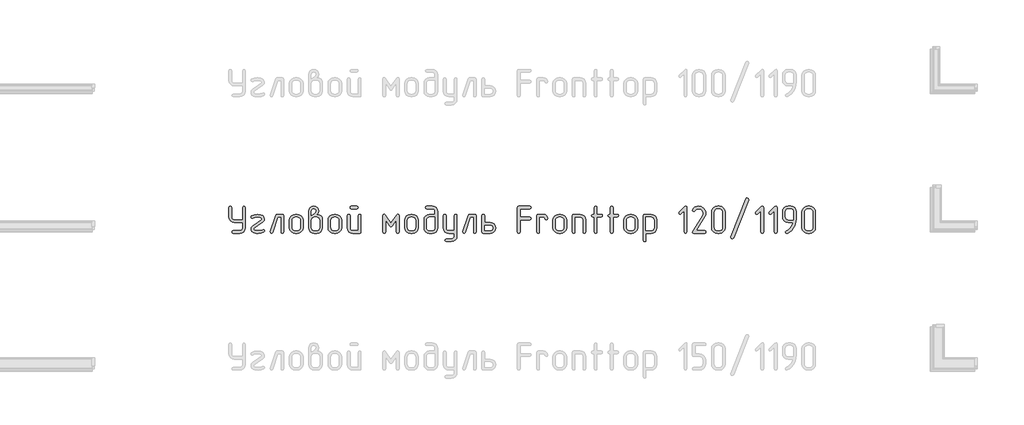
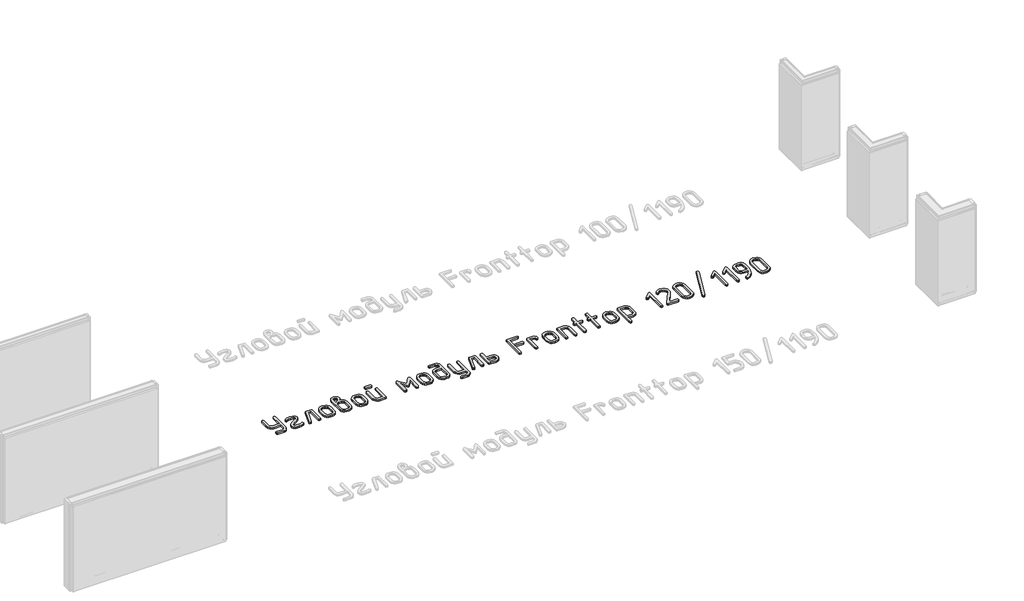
# One storey, part 29 of 37: 1 proxy.
"""IFC4 building model written with IfcOpenShell, lengths in millimetres."""

from ifc_helpers import new_model, si_unit, origin, origin_with_axes, place, context, project, spatial, polyline, outline, extrude, element, save

model = new_model("IFC4")

# Units and contexts
model_context = context("Model", 3, world=origin())
ifc_project = project(units=[si_unit("LENGTHUNIT", "METRE", prefix="MILLI")], contexts=[model_context])

# Site, building, storey
site = spatial("IfcSite", under=ifc_project)
building = spatial("IfcBuilding", under=site)
storey = spatial("IfcBuildingStorey", under=building, Name="Этаж 01", Elevation=0.0)

# Proxy
placement = place(None, origin())
element("IfcBuildingElementProxy", 1, Name="300 мм ГОСТ 2.304", ObjectType="300 мм ГОСТ 2.304", at=placement, inside=storey, context=model_context, shape_type="SweptSolid", body=[
    extrude(outline(polyline([(64282.5947081, -26608.7261154), (64192.9398643, -26608.7261154), (64169.869135, -26604.3522505), (64150.5152523, -26591.2306559), (64137.3936577, -26571.8767732), (64133.0197928, -26548.8060439), (64133.0197928, -26444.2838139), (64137.4124296, -26433.1332743), (64148.3377058, -26428.9659009), (64158.6247356, -26432.9080109), (64163.205092, -26444.2838139), (64163.205092, -26548.8060439), (64165.3357086, -26560.4540402), (64171.7275583, -26570.0183499), (64181.2918679, -26576.4101996), (64192.9398643, -26578.5408162), (64282.5947081, -26578.5408162), (64282.5947081, -26444.2838139), (64286.949801, -26433.1332743), (64297.4620942, -26428.9659009), (64307.9368436, -26432.9080109), (64312.3294804, -26444.2838139), (64312.3294804, -26668.19566), (64307.9556155, -26691.6042844), (64294.8340209, -26711.0707988), (64275.8180333, -26723.8544983), (64252.8599358, -26728.1157314), (64178.0724781, -26728.1157314), (64167.147202, -26723.7606385), (64163.205092, -26713.2483453), (64166.9219385, -26702.736052), (64178.0724781, -26698.3809591), (64252.8599358, -26698.3809591), (64264.2263528, -26696.1940267), (64273.8469783, -26689.6332294), (64280.4077756, -26679.8999722), (64282.5947081, -26668.19566), (64282.5947081, -26608.7261154)])), origin_with_axes(), (0.0, 0.0, 1.0), 20.0),
    extrude(outline(polyline([(64514.9914765, -26714.524838), (64485.4444237, -26725.0746752), (64451.6173658, -26728.5662583), (64430.8180428, -26727.4774851), (64413.0973199, -26724.5866044), (64396.8408093, -26719.4524755), (64384.8643037, -26709.3062353), (64377.4869265, -26695.6496401), (64375.0278008, -26679.984446), (64378.9699108, -26660.7619669), (64391.2467675, -26644.618088), (64486.5331969, -26578.991343), (64491.4139045, -26569.8306304), (64487.5844263, -26560.4071103), (64476.0959915, -26554.0621905), (64442.3815653, -26549.7070976), (64416.2510079, -26552.4290307), (64397.32888, -26560.5948299), (64388.1681673, -26564.1239569), (64377.693418, -26559.5436005), (64373.3007812, -26548.355517), (64379.4579815, -26537.0172579), (64408.0664367, -26524.777945), (64445.0096386, -26520.4228521), (64450.2657853, -26520.4228521), (64479.1370478, -26523.9144352), (64501.85111, -26533.7509382), (64516.7184961, -26549.0313073), (64521.9746427, -26568.9295767), (64517.7134096, -26586.6315276), (64504.9297101, -26602.193476), (64409.5681929, -26668.19566), (64404.3871341, -26679.6090069), (64408.1039806, -26689.8584928), (64417.9029396, -26695.7528858), (64434.3096259, -26697.5174493), (64451.9928049, -26698.3809591), (64478.4612575, -26696.2034127), (64501.0251441, -26687.8686659), (64508.4588371, -26686.1416463), (64519.1588499, -26690.7220026), (64523.3262233, -26701.9100861), (64521.2425366, -26709.1936036), (64514.9914765, -26714.524838)])), origin_with_axes(), (0.0, 0.0, 1.0), 20.0),
    extrude(outline(polyline([(64734.3229662, -26713.2483453), (64730.1555928, -26724.3988849), (64719.45558, -26728.1157314), (64708.9432868, -26724.1736215), (64704.5881939, -26713.2483453), (64704.5881939, -26548.8060439), (64670.0478018, -26548.8060439), (64614.0322964, -26718.0539651), (64608.5884303, -26725.4876581), (64600.5164908, -26728.1157314), (64589.7789341, -26724.1736215), (64585.1985778, -26713.6988721), (64586.0996315, -26708.4427255), (64645.1186493, -26529.133038), (64650.4498837, -26521.5867132), (64659.5355086, -26519.0712716), (64719.45558, -26519.0712716), (64730.6061197, -26522.7881181), (64734.3229662, -26533.9386577), (64734.3229662, -26713.2483453)])), origin_with_axes(), (0.0, 0.0, 1.0), 20.0),
    extrude(outline(polyline([(64945.7702359, -26662.4889865), (64940.9646162, -26687.9812976), (64926.5477569, -26709.3437792), (64905.5231704, -26723.4227434), (64880.143491, -26728.1157314), (64862.1975047, -26728.1157314), (64836.7615094, -26723.4227434), (64815.4177998, -26709.3437792), (64801.0009405, -26687.9812976), (64796.1953207, -26662.4889865), (64796.1953207, -26584.6980165), (64801.0009405, -26559.5436005), (64815.4177998, -26538.2937506), (64837.1744924, -26523.8768913), (64862.1975047, -26519.0712716), (64880.143491, -26519.0712716), (64905.288521, -26523.8862773), (64926.510213, -26538.3312945), (64940.9552302, -26559.5529865), (64945.7702359, -26584.6980165), (64945.7702359, -26662.4889865)]), holes=[polyline([(64916.0354636, -26662.4889865), (64916.0354636, -26584.6980165), (64913.4073903, -26570.9194036), (64905.5231704, -26559.3183371), (64893.9221039, -26551.4341172), (64880.143491, -26548.8060439), (64862.1975047, -26548.8060439), (64848.4282777, -26551.4341172), (64836.8553692, -26559.3183371), (64828.9993072, -26570.9194036), (64826.3806199, -26584.6980165), (64826.3806199, -26662.4889865), (64828.9993072, -26676.2675994), (64836.8553692, -26687.8686659), (64848.4282777, -26695.7528858), (64862.1975047, -26698.3809591), (64880.143491, -26698.3809591), (64893.9221039, -26695.7528858), (64905.5231704, -26687.8686659), (64913.4073903, -26676.2675994), (64916.0354636, -26662.4889865)])]), origin_with_axes(), (0.0, 0.0, 1.0), 20.0),
    extrude(outline(polyline([(65097.2974342, -26519.9723253), (65122.7897453, -26524.2335584), (65142.3501195, -26537.0172579), (65153.5006592, -26555.057104), (65157.2175057, -26578.5408162), (65157.2175057, -26668.19566), (65152.8436408, -26691.6042844), (65139.7220462, -26711.0707988), (65120.5934269, -26723.8544983), (65097.2974342, -26728.1157314), (65067.5626619, -26728.1157314), (65044.4919326, -26723.8544983), (65025.1380499, -26711.0707988), (65012.0164553, -26691.6042844), (65007.6425905, -26668.19566), (65007.6425905, -26483.2543867), (65011.9038236, -26460.3901489), (65024.6875231, -26442.5567943), (65041.4133325, -26432.3636243), (65061.8559884, -26428.9659009), (65081.9607493, -26432.3636243), (65098.573927, -26442.5567943), (65111.0760472, -26460.2775172), (65115.2434206, -26482.8038599), (65111.0760472, -26504.8421318), (65097.2974342, -26519.9723253)]), holes=[polyline([(65127.4827334, -26668.19566), (65127.4827334, -26578.5408162), (65125.295801, -26567.1743991), (65118.7350037, -26557.5537736), (65109.0017464, -26550.9929763), (65097.2974342, -26548.8060439), (65067.5626619, -26548.8060439), (65055.9146656, -26550.9929763), (65046.3503559, -26557.5537736), (65039.9585062, -26567.1743991), (65037.8278896, -26578.5408162), (65037.8278896, -26668.19566), (65039.9585062, -26679.8999722), (65046.3503559, -26689.6332294), (65055.9146656, -26696.1940267), (65067.5626619, -26698.3809591), (65097.2974342, -26698.3809591), (65109.0017464, -26696.1940267), (65118.7350037, -26689.6332294), (65125.295801, -26679.8999722), (65127.4827334, -26668.19566)]), polyline([(65037.8278896, -26529.133038), (65044.8110558, -26525.0032085), (65050.0672025, -26521.248818), (65060.1289688, -26514.0403884), (65067.5626619, -26508.5589783), (65079.8019748, -26497.671246), (65085.5086482, -26483.2543867), (65083.7065408, -26473.1644624), (65078.3002186, -26465.7213834), (65070.4723145, -26461.1316411), (65061.4054616, -26459.601727), (65052.4512404, -26461.1316411), (65044.8110558, -26465.7213834), (65039.5736812, -26473.1644624), (65037.8278896, -26483.2543867), (65037.8278896, -26529.133038)])]), origin_with_axes(), (0.0, 0.0, 1.0), 20.0),
    extrude(outline(polyline([(65368.6647755, -26662.4889865), (65363.8591557, -26687.9812976), (65349.4422964, -26709.3437792), (65328.4177099, -26723.4227434), (65303.0380305, -26728.1157314), (65285.0920442, -26728.1157314), (65259.6560489, -26723.4227434), (65238.3123393, -26709.3437792), (65223.89548, -26687.9812976), (65219.0898602, -26662.4889865), (65219.0898602, -26584.6980165), (65223.89548, -26559.5436005), (65238.3123393, -26538.2937506), (65260.0690319, -26523.8768913), (65285.0920442, -26519.0712716), (65303.0380305, -26519.0712716), (65328.1830605, -26523.8862773), (65349.4047525, -26538.3312945), (65363.8497697, -26559.5529865), (65368.6647755, -26584.6980165), (65368.6647755, -26662.4889865)]), holes=[polyline([(65338.9300032, -26662.4889865), (65338.9300032, -26584.6980165), (65336.3019298, -26570.9194036), (65328.4177099, -26559.3183371), (65316.8166434, -26551.4341172), (65303.0380305, -26548.8060439), (65285.0920442, -26548.8060439), (65271.3228172, -26551.4341172), (65259.7499087, -26559.3183371), (65251.8938467, -26570.9194036), (65249.2751594, -26584.6980165), (65249.2751594, -26662.4889865), (65251.8938467, -26676.2675994), (65259.7499087, -26687.8686659), (65271.3228172, -26695.7528858), (65285.0920442, -26698.3809591), (65303.0380305, -26698.3809591), (65316.8166434, -26695.7528858), (65328.4177099, -26687.8686659), (65336.3019298, -26676.2675994), (65338.9300032, -26662.4889865)])]), origin_with_axes(), (0.0, 0.0, 1.0), 20.0),
    extrude(outline(polyline([(65535.5098868, -26459.1512001), (65475.5898153, -26459.1512001), (65464.6645391, -26454.7961072), (65460.7224291, -26444.2838139), (65464.4392757, -26433.5838012), (65475.5898153, -26428.9659009), (65535.5098868, -26428.9659009), (65546.6604264, -26433.3585378), (65550.3772729, -26444.2838139), (65546.4351629, -26454.5708438), (65535.5098868, -26459.1512001)])), origin_with_axes(), (0.0, 0.0, 1.0), 20.0),
    extrude(outline(polyline([(65580.1120452, -26713.2483453), (65576.3951987, -26724.3988849), (65565.2446591, -26728.1157314), (65490.4572014, -26728.1157314), (65467.3864722, -26723.8544983), (65448.0325894, -26711.0707988), (65434.9109948, -26691.6042844), (65430.53713, -26668.19566), (65430.53713, -26533.9386577), (65434.9297668, -26523.0133815), (65445.855043, -26519.0712716), (65456.1420728, -26522.7881181), (65460.7224291, -26533.9386577), (65460.7224291, -26668.19566), (65462.8530457, -26679.8999722), (65469.2448954, -26689.6332294), (65478.8092051, -26696.1940267), (65490.4572014, -26698.3809591), (65550.3772729, -26698.3809591), (65550.3772729, -26533.9386577), (65554.7323658, -26523.0133815), (65565.2446591, -26519.0712716), (65575.7194084, -26522.7881181), (65580.1120452, -26533.9386577), (65580.1120452, -26713.2483453)])), origin_with_axes(), (0.0, 0.0, 1.0), 20.0),
    extrude(outline(polyline([(65999.1020187, -26713.2483453), (65994.7093818, -26724.1736215), (65984.2346325, -26728.1157314), (65973.4970758, -26724.3988849), (65969.3672464, -26713.2483453), (65969.3672464, -26580.2678358), (65921.6864877, -26647.2461613), (65915.5480594, -26653.1030104), (65909.4471749, -26655.0552934), (65903.121027, -26653.1030104), (65897.207862, -26647.2461613), (65849.9776303, -26580.2678358), (65849.9776303, -26713.2483453), (65845.3972739, -26724.1736215), (65835.1102441, -26728.1157314), (65823.9597045, -26724.3988849), (65819.7923311, -26713.2483453), (65819.7923311, -26533.9386577), (65823.5091776, -26521.0235546), (65832.9326977, -26516.4431983), (65840.666742, -26518.6395167), (65847.349557, -26525.2284719), (65909.4471749, -26612.6306814), (65971.9953197, -26525.2284719), (65978.7532225, -26518.6395167), (65985.9616521, -26516.4431983), (65995.3851721, -26521.0235546), (65999.1020187, -26533.9386577), (65999.1020187, -26713.2483453)])), origin_with_axes(), (0.0, 0.0, 1.0), 20.0),
    extrude(outline(polyline([(66209.6482347, -26662.4889865), (66204.8426149, -26687.9812976), (66190.4257556, -26709.3437792), (66169.4011692, -26723.4227434), (66144.0214898, -26728.1157314), (66126.0755035, -26728.1157314), (66100.6395082, -26723.4227434), (66079.2957985, -26709.3437792), (66064.8789392, -26687.9812976), (66060.0733195, -26662.4889865), (66060.0733195, -26584.6980165), (66064.8789392, -26559.5436005), (66079.2957985, -26538.2937506), (66101.0524911, -26523.8768913), (66126.0755035, -26519.0712716), (66144.0214898, -26519.0712716), (66169.1665198, -26523.8862773), (66190.3882117, -26538.3312945), (66204.833229, -26559.5529865), (66209.6482347, -26584.6980165), (66209.6482347, -26662.4889865)]), holes=[polyline([(66179.9134624, -26662.4889865), (66179.9134624, -26584.6980165), (66177.2853891, -26570.9194036), (66169.4011692, -26559.3183371), (66157.8001027, -26551.4341172), (66144.0214898, -26548.8060439), (66126.0755035, -26548.8060439), (66112.3062765, -26551.4341172), (66100.733368, -26559.3183371), (66092.877306, -26570.9194036), (66090.2586186, -26584.6980165), (66090.2586186, -26662.4889865), (66092.877306, -26676.2675994), (66100.733368, -26687.8686659), (66112.3062765, -26695.7528858), (66126.0755035, -26698.3809591), (66144.0214898, -26698.3809591), (66157.8001027, -26695.7528858), (66169.4011692, -26687.8686659), (66177.2853891, -26676.2675994), (66179.9134624, -26662.4889865)])]), origin_with_axes(), (0.0, 0.0, 1.0), 20.0),
    extrude(outline(polyline([(66391.3607322, -26519.0712716), (66391.3607322, -26488.8859724), (66389.1737997, -26477.2379761), (66382.6130024, -26467.6736664), (66372.8797452, -26461.2818167), (66361.175433, -26459.1512001), (66301.7058884, -26459.1512001), (66290.7806122, -26454.7961072), (66286.8385022, -26444.2838139), (66290.5553488, -26433.5838012), (66301.7058884, -26428.9659009), (66361.175433, -26428.9659009), (66384.4714257, -26433.3397658), (66403.600045, -26446.4613604), (66416.7216396, -26465.8152431), (66421.0955045, -26488.8859724), (66421.0955045, -26668.19566), (66416.7216396, -26691.6042844), (66403.600045, -26711.0707988), (66384.4714257, -26723.8544983), (66361.175433, -26728.1157314), (66331.4406607, -26728.1157314), (66308.3699314, -26723.8544983), (66289.0160487, -26711.0707988), (66275.8944541, -26691.6042844), (66271.5205892, -26668.19566), (66271.5205892, -26578.5408162), (66275.8944541, -26555.8079821), (66289.0160487, -26536.566731), (66308.3699314, -26523.4451364), (66331.4406607, -26519.0712716), (66391.3607322, -26519.0712716)]), holes=[polyline([(66391.3607322, -26548.8060439), (66331.4406607, -26548.8060439), (66319.7926643, -26550.9929763), (66310.2283547, -26557.5537736), (66303.836505, -26567.1743991), (66301.7058884, -26578.5408162), (66301.7058884, -26668.19566), (66303.836505, -26679.8999722), (66310.2283547, -26689.6332294), (66319.7926643, -26696.1940267), (66331.4406607, -26698.3809591), (66361.175433, -26698.3809591), (66372.8797452, -26696.1940267), (66382.6130024, -26689.6332294), (66389.1737997, -26679.8999722), (66391.3607322, -26668.19566), (66391.3607322, -26548.8060439)])]), origin_with_axes(), (0.0, 0.0, 1.0), 20.0),
    extrude(outline(polyline([(66602.8080019, -26728.1157314), (66542.8879304, -26728.1157314), (66519.8172012, -26723.8544983), (66500.4633184, -26711.0707988), (66487.3417238, -26691.6042844), (66482.967859, -26668.19566), (66482.967859, -26533.9386577), (66487.3604958, -26523.0133815), (66498.285772, -26519.0712716), (66508.5728018, -26522.7881181), (66513.1531581, -26533.9386577), (66513.1531581, -26668.19566), (66515.2837747, -26679.8999722), (66521.6756244, -26689.6332294), (66531.2399341, -26696.1940267), (66542.8879304, -26698.3809591), (66602.8080019, -26698.3809591), (66602.8080019, -26533.9386577), (66607.1630948, -26523.0133815), (66617.6753881, -26519.0712716), (66628.1501374, -26522.7881181), (66632.5427742, -26533.9386577), (66632.5427742, -26757.8505038), (66628.2815411, -26781.1464965), (66615.4978416, -26800.2751158), (66596.0313272, -26813.3967104), (66572.6227028, -26817.7705752), (66513.1531581, -26817.7705752), (66502.2278819, -26813.3779384), (66498.285772, -26802.9031891), (66502.0026185, -26792.3908958), (66513.1531581, -26788.0358029), (66572.6227028, -26788.0358029), (66584.327015, -26785.8488705), (66594.0602722, -26779.2880732), (66600.6210695, -26769.554816), (66602.8080019, -26757.8505038), (66602.8080019, -26728.1157314)])), origin_with_axes(), (0.0, 0.0, 1.0), 20.0),
    extrude(outline(polyline([(66843.990044, -26713.2483453), (66839.8226706, -26724.3988849), (66829.1226578, -26728.1157314), (66818.6103646, -26724.1736215), (66814.2552717, -26713.2483453), (66814.2552717, -26548.8060439), (66779.7148796, -26548.8060439), (66723.6993742, -26718.0539651), (66718.255508, -26725.4876581), (66710.1835686, -26728.1157314), (66699.4460119, -26724.1736215), (66694.8656556, -26713.6988721), (66695.7667093, -26708.4427255), (66754.7857271, -26529.133038), (66760.1169615, -26521.5867132), (66769.2025864, -26519.0712716), (66829.1226578, -26519.0712716), (66840.2731974, -26522.7881181), (66843.990044, -26533.9386577), (66843.990044, -26713.2483453)])), origin_with_axes(), (0.0, 0.0, 1.0), 20.0),
    extrude(outline(polyline([(66936.0476976, -26608.7261154), (66995.5172423, -26608.7261154), (67021.0095534, -26613.3252436), (67040.5699276, -26627.1226285), (67051.7204672, -26645.4628258), (67055.4373137, -26668.19566), (67051.8330989, -26690.9472661), (67041.0204544, -26709.3437792), (67021.1221851, -26723.4227434), (66995.5172423, -26728.1157314), (66921.1803115, -26728.1157314), (66909.6918767, -26724.3988849), (66905.8623985, -26713.2483453), (66905.8623985, -26533.9386577), (66910.2550353, -26523.0133815), (66921.1803115, -26519.0712716), (66931.4673413, -26522.7881181), (66936.0476976, -26533.9386577), (66936.0476976, -26608.7261154)]), holes=[polyline([(66936.0476976, -26638.4608877), (66936.0476976, -26698.3809591), (66995.5172423, -26698.3809591), (67008.3009417, -26696.1377108), (67017.8183215, -26689.407966), (67023.7314864, -26679.6183929), (67025.7025414, -26668.19566), (67023.8441182, -26657.1577521), (67018.2688483, -26647.6216003), (67008.6388369, -26640.7510658), (66995.5172423, -26638.4608877), (66936.0476976, -26638.4608877)])]), origin_with_axes(), (0.0, 0.0, 1.0), 20.0),
    extrude(outline(polyline([(67325.3028988, -26548.355517), (67429.8251287, -26548.355517), (67440.9756683, -26552.5228904), (67444.6925149, -26563.2229032), (67440.7504049, -26573.9604598), (67429.8251287, -26578.5408162), (67325.3028988, -26578.5408162), (67325.3028988, -26713.2483453), (67321.1355254, -26724.3988849), (67310.4355126, -26728.1157314), (67299.697956, -26724.1736215), (67295.1175996, -26713.2483453), (67295.1175996, -26444.2838139), (67298.9470779, -26432.7953792), (67310.4355126, -26428.9659009), (67429.8251287, -26428.9659009), (67440.9756683, -26433.3585378), (67444.6925149, -26444.2838139), (67440.7504049, -26454.5708438), (67429.8251287, -26459.1512001), (67325.3028988, -26459.1512001), (67325.3028988, -26548.355517)])), origin_with_axes(), (0.0, 0.0, 1.0), 20.0),
    extrude(outline(polyline([(67626.4050123, -26563.67343), (67622.2376389, -26574.8239697), (67611.5376262, -26578.5408162), (67600.8000695, -26574.5987062), (67596.2197132, -26563.67343), (67592.0523398, -26553.1986807), (67581.352327, -26548.8060439), (67536.7501685, -26548.8060439), (67536.7501685, -26713.2483453), (67532.5827951, -26724.3988849), (67521.8827824, -26728.1157314), (67511.1452257, -26724.1736215), (67506.5648694, -26713.2483453), (67506.5648694, -26533.9386577), (67510.3943476, -26522.7881181), (67521.8827824, -26519.0712716), (67581.352327, -26519.0712716), (67598.8477865, -26522.5628547), (67613.3021897, -26532.1740942), (67622.9134292, -26546.403234), (67626.4050123, -26563.67343)])), origin_with_axes(), (0.0, 0.0, 1.0), 20.0),
    extrude(outline(polyline([(67833.947716, -26662.4889865), (67829.1420963, -26687.9812976), (67814.7252369, -26709.3437792), (67793.7006505, -26723.4227434), (67768.3209711, -26728.1157314), (67750.3749848, -26728.1157314), (67724.9389895, -26723.4227434), (67703.5952798, -26709.3437792), (67689.1784205, -26687.9812976), (67684.3728008, -26662.4889865), (67684.3728008, -26584.6980165), (67689.1784205, -26559.5436005), (67703.5952798, -26538.2937506), (67725.3519725, -26523.8768913), (67750.3749848, -26519.0712716), (67768.3209711, -26519.0712716), (67793.4660011, -26523.8862773), (67814.687693, -26538.3312945), (67829.1327103, -26559.5529865), (67833.947716, -26584.6980165), (67833.947716, -26662.4889865)]), holes=[polyline([(67804.2129437, -26662.4889865), (67804.2129437, -26584.6980165), (67801.5848704, -26570.9194036), (67793.7006505, -26559.3183371), (67782.099584, -26551.4341172), (67768.3209711, -26548.8060439), (67750.3749848, -26548.8060439), (67736.6057578, -26551.4341172), (67725.0328493, -26559.3183371), (67717.1767873, -26570.9194036), (67714.5580999, -26584.6980165), (67714.5580999, -26662.4889865), (67717.1767873, -26676.2675994), (67725.0328493, -26687.8686659), (67736.6057578, -26695.7528858), (67750.3749848, -26698.3809591), (67768.3209711, -26698.3809591), (67782.099584, -26695.7528858), (67793.7006505, -26687.8686659), (67801.5848704, -26676.2675994), (67804.2129437, -26662.4889865)])]), origin_with_axes(), (0.0, 0.0, 1.0), 20.0),
    extrude(outline(polyline([(68045.3949858, -26713.2483453), (68041.2276124, -26724.3988849), (68030.5275996, -26728.1157314), (68020.0153064, -26724.1736215), (68015.6602135, -26713.2483453), (68015.6602135, -26578.5408162), (68013.473281, -26567.1743991), (68006.9124837, -26557.5537736), (67997.1792265, -26550.9929763), (67985.4749143, -26548.8060439), (67926.0053697, -26548.8060439), (67926.0053697, -26713.2483453), (67921.8379963, -26724.3988849), (67911.1379835, -26728.1157314), (67900.4004269, -26724.1736215), (67895.8200705, -26713.2483453), (67895.8200705, -26533.9386577), (67899.6495488, -26522.7881181), (67911.1379835, -26519.0712716), (67985.4749143, -26519.0712716), (68008.770907, -26523.3325047), (68027.8995263, -26536.1162042), (68041.0211209, -26555.4700869), (68045.3949858, -26578.5408162), (68045.3949858, -26713.2483453)])), origin_with_axes(), (0.0, 0.0, 1.0), 20.0),
    extrude(outline(polyline([(68167.1874117, -26519.0712716), (68212.2400971, -26519.0712716), (68223.3906367, -26523.238645), (68227.1074832, -26533.9386577), (68223.1653733, -26544.2256875), (68212.2400971, -26548.8060439), (68167.1874117, -26548.8060439), (68167.1874117, -26713.2483453), (68163.0200384, -26724.3988849), (68152.3200256, -26728.1157314), (68141.8077324, -26724.1736215), (68137.4526394, -26713.2483453), (68137.4526394, -26548.8060439), (68122.5852533, -26548.8060439), (68111.4347137, -26544.450951), (68107.2673403, -26533.9386577), (68111.2094502, -26523.4639084), (68122.5852533, -26519.0712716), (68137.4526394, -26519.0712716), (68137.4526394, -26444.2838139), (68141.8077324, -26433.1332743), (68152.3200256, -26428.9659009), (68162.7947749, -26432.9080109), (68167.1874117, -26444.2838139), (68167.1874117, -26519.0712716)])), origin_with_axes(), (0.0, 0.0, 1.0), 20.0),
    extrude(outline(polyline([(68344.9953431, -26519.0712716), (68390.0480284, -26519.0712716), (68401.1985681, -26523.238645), (68404.9154146, -26533.9386577), (68400.9733046, -26544.2256875), (68390.0480284, -26548.8060439), (68344.9953431, -26548.8060439), (68344.9953431, -26713.2483453), (68340.8279697, -26724.3988849), (68330.127957, -26728.1157314), (68319.6156637, -26724.1736215), (68315.2605708, -26713.2483453), (68315.2605708, -26548.8060439), (68300.3931847, -26548.8060439), (68289.2426451, -26544.450951), (68285.0752717, -26533.9386577), (68289.0173816, -26523.4639084), (68300.3931847, -26519.0712716), (68315.2605708, -26519.0712716), (68315.2605708, -26444.2838139), (68319.6156637, -26433.1332743), (68330.127957, -26428.9659009), (68340.6027063, -26432.9080109), (68344.9953431, -26444.2838139), (68344.9953431, -26519.0712716)])), origin_with_axes(), (0.0, 0.0, 1.0), 20.0),
    extrude(outline(polyline([(68612.4581183, -26662.4889865), (68607.6524985, -26687.9812976), (68593.2356392, -26709.3437792), (68572.2110527, -26723.4227434), (68546.8313734, -26728.1157314), (68528.885387, -26728.1157314), (68503.4493918, -26723.4227434), (68482.1056821, -26709.3437792), (68467.6888228, -26687.9812976), (68462.883203, -26662.4889865), (68462.883203, -26584.6980165), (68467.6888228, -26559.5436005), (68482.1056821, -26538.2937506), (68503.8623747, -26523.8768913), (68528.885387, -26519.0712716), (68546.8313734, -26519.0712716), (68571.9764033, -26523.8862773), (68593.1980953, -26538.3312945), (68607.6431126, -26559.5529865), (68612.4581183, -26584.6980165), (68612.4581183, -26662.4889865)]), holes=[polyline([(68582.723346, -26662.4889865), (68582.723346, -26584.6980165), (68580.0952727, -26570.9194036), (68572.2110527, -26559.3183371), (68560.6099863, -26551.4341172), (68546.8313734, -26548.8060439), (68528.885387, -26548.8060439), (68515.1161601, -26551.4341172), (68503.5432515, -26559.3183371), (68495.6871895, -26570.9194036), (68493.0685022, -26584.6980165), (68493.0685022, -26662.4889865), (68495.6871895, -26676.2675994), (68503.5432515, -26687.8686659), (68515.1161601, -26695.7528858), (68528.885387, -26698.3809591), (68546.8313734, -26698.3809591), (68560.6099863, -26695.7528858), (68572.2110527, -26687.8686659), (68580.0952727, -26676.2675994), (68582.723346, -26662.4889865)])]), origin_with_axes(), (0.0, 0.0, 1.0), 20.0),
    extrude(outline(polyline([(68704.515772, -26728.1157314), (68704.515772, -26802.9031891), (68700.3483986, -26814.0537287), (68689.6483858, -26817.7705752), (68678.9108291, -26813.8284653), (68674.3304728, -26802.9031891), (68674.3304728, -26533.9386577), (68678.1599511, -26522.7881181), (68689.6483858, -26519.0712716), (68763.9853166, -26519.0712716), (68787.2813093, -26523.3325047), (68806.4099286, -26536.1162042), (68819.5315232, -26555.4700869), (68823.9053881, -26578.5408162), (68823.9053881, -26668.19566), (68819.5315232, -26691.6042844), (68806.4099286, -26711.0707988), (68787.2813093, -26723.8544983), (68763.9853166, -26728.1157314), (68704.515772, -26728.1157314)]), holes=[polyline([(68704.515772, -26698.3809591), (68763.9853166, -26698.3809591), (68775.6896288, -26696.1940267), (68785.422886, -26689.6332294), (68791.9836833, -26679.8999722), (68794.1706157, -26668.19566), (68794.1706157, -26578.5408162), (68791.9836833, -26567.1743991), (68785.422886, -26557.5537736), (68775.6896288, -26550.9929763), (68763.9853166, -26548.8060439), (68704.515772, -26548.8060439), (68704.515772, -26698.3809591)])]), origin_with_axes(), (0.0, 0.0, 1.0), 20.0),
    extrude(outline(polyline([(69153.2405177, -26713.2483453), (69149.0731443, -26724.3988849), (69138.3731316, -26728.1157314), (69128.0861018, -26724.1736215), (69123.5057454, -26713.2483453), (69123.5057454, -26480.1757866), (69088.9653533, -26514.2656518), (69078.9035869, -26519.0712716), (69068.1660303, -26514.4909152), (69063.5856739, -26503.7533586), (69068.3912937, -26493.3161531), (69127.8608383, -26433.7715207), (69141.0012049, -26427.2388813), (69149.7489346, -26431.6315182), (69153.2405177, -26444.2838139), (69153.2405177, -26713.2483453)])), origin_with_axes(), (0.0, 0.0, 1.0), 20.0),
    extrude(outline(polyline([(69351.1719819, -26544.450951), (69254.5339719, -26698.3809591), (69347.2674158, -26698.3809591), (69358.4179554, -26702.5483325), (69362.134802, -26713.2483453), (69358.192692, -26723.5353751), (69347.2674158, -26728.1157314), (69227.8777997, -26728.1157314), (69215.7135747, -26725.1685349), (69211.658833, -26716.3269455), (69215.18796, -26704.9135985), (69325.4168634, -26529.133038), (69331.0484491, -26506.8319587), (69327.3316026, -26488.3603577), (69316.181063, -26473.1926204), (69299.3426218, -26462.6615552), (69279.4631244, -26459.1512001), (69267.7681982, -26460.6811142), (69257.1620452, -26465.2708565), (69240.1171126, -26481.9028062), (69235.1050013, -26487.1401809), (69227.8777997, -26488.8859724), (69217.3655065, -26484.7561429), (69212.5598867, -26474.4691131), (69215.18796, -26466.1343663), (69227.2207814, -26451.1168046), (69242.294659, -26439.2529308), (69259.3395916, -26431.5376584), (69277.285578, -26428.9659009), (69309.3105284, -26434.8790659), (69336.3045957, -26452.6185607), (69354.663565, -26477.9982401), (69359.2533073, -26492.3212397), (69360.7832214, -26507.7330124), (69358.3804115, -26526.5237366), (69351.1719819, -26544.450951)])), origin_with_axes(), (0.0, 0.0, 1.0), 20.0),
    extrude(outline(polyline([(69573.5820717, -26662.4889865), (69568.776452, -26687.9812976), (69554.3595927, -26709.3437792), (69533.3350062, -26723.4227434), (69507.9553268, -26728.1157314), (69490.0093405, -26728.1157314), (69464.5733452, -26723.4227434), (69443.2296355, -26709.3437792), (69428.8127762, -26687.9812976), (69424.0071565, -26662.4889865), (69424.0071565, -26495.0431727), (69428.8127762, -26469.8887568), (69443.2296355, -26448.6389069), (69464.7610647, -26433.8841524), (69490.0093405, -26428.9659009), (69507.9553268, -26428.9659009), (69533.1003568, -26433.7809067), (69554.3220488, -26448.2259239), (69568.767066, -26469.5602476), (69573.5820717, -26495.0431727), (69573.5820717, -26662.4889865)]), holes=[polyline([(69543.8472994, -26662.4889865), (69543.8472994, -26495.0431727), (69541.2192261, -26481.2645598), (69533.3350062, -26469.6634933), (69521.7339397, -26461.7792734), (69507.9553268, -26459.1512001), (69490.0093405, -26459.1512001), (69476.2401135, -26461.7792734), (69464.667205, -26469.6634933), (69456.811143, -26481.2645598), (69454.1924556, -26495.0431727), (69454.1924556, -26662.4889865), (69456.811143, -26676.2675994), (69464.667205, -26687.8686659), (69476.2401135, -26695.7528858), (69490.0093405, -26698.3809591), (69507.9553268, -26698.3809591), (69521.7339397, -26695.7528858), (69533.3350062, -26687.8686659), (69541.2192261, -26676.2675994), (69543.8472994, -26662.4889865)])]), origin_with_axes(), (0.0, 0.0, 1.0), 20.0),
    extrude(outline(polyline([(69829.1809731, -26359.8851168), (69664.7386717, -26778.4245634), (69659.0695421, -26785.4077296), (69651.2228661, -26788.0358029), (69640.260046, -26783.8684295), (69635.4544262, -26773.1684168), (69636.3554799, -26767.4617433), (69800.7977813, -26348.9973845), (69806.4669109, -26341.9391305), (69814.3135869, -26339.3110572), (69825.276407, -26343.703694), (69830.0820268, -26354.1784433), (69829.1809731, -26359.8851168)])), origin_with_axes(), (0.0, 0.0, 1.0), 20.0),
    extrude(outline(polyline([(69994.223977, -26713.2483453), (69990.0566036, -26724.3988849), (69979.3565908, -26728.1157314), (69969.069561, -26724.1736215), (69964.4892047, -26713.2483453), (69964.4892047, -26480.1757866), (69929.9488126, -26514.2656518), (69919.8870462, -26519.0712716), (69909.1494895, -26514.4909152), (69904.5691332, -26503.7533586), (69909.374753, -26493.3161531), (69968.8442976, -26433.7715207), (69981.9846641, -26427.2388813), (69990.7323939, -26431.6315182), (69994.223977, -26444.2838139), (69994.223977, -26713.2483453)])), origin_with_axes(), (0.0, 0.0, 1.0), 20.0),
    extrude(outline(polyline([(70143.1981898, -26713.2483453), (70139.0308164, -26724.3988849), (70128.3308036, -26728.1157314), (70118.0437738, -26724.1736215), (70113.4634175, -26713.2483453), (70113.4634175, -26480.1757866), (70078.9230254, -26514.2656518), (70068.861259, -26519.0712716), (70058.1237023, -26514.4909152), (70053.543346, -26503.7533586), (70058.3489657, -26493.3161531), (70117.8185104, -26433.7715207), (70130.9588769, -26427.2388813), (70139.7066066, -26431.6315182), (70143.1981898, -26444.2838139), (70143.1981898, -26713.2483453)])), origin_with_axes(), (0.0, 0.0, 1.0), 20.0),
    extrude(outline(polyline([(70316.6510282, -26608.7261154), (70262.4376302, -26608.7261154), (70239.366901, -26604.3522505), (70220.0130182, -26591.2306559), (70206.8914236, -26571.8767732), (70202.5175588, -26548.8060439), (70202.5175588, -26488.8859724), (70206.8914236, -26465.8152431), (70220.0130182, -26446.4613604), (70239.366901, -26433.3397658), (70262.4376302, -26428.9659009), (70292.1724025, -26428.9659009), (70315.4683952, -26433.3397658), (70334.5970145, -26446.4613604), (70347.7186091, -26465.8152431), (70352.092474, -26488.8859724), (70352.092474, -26563.2229032), (70348.150364, -26605.347164), (70336.3240342, -26644.1675611), (70322.0667364, -26670.5796979), (70302.8724153, -26693.8006028), (70279.6421244, -26712.8729062), (70253.2769176, -26726.8392387), (70247.1197172, -26728.1157314), (70236.8702313, -26723.3101117), (70232.7028579, -26712.3472916), (70234.8804044, -26704.725879), (70241.8635706, -26699.2820128), (70263.1885083, -26688.0939293), (70281.6601093, -26673.0012797), (70296.8466186, -26654.3231873), (70308.3162814, -26632.3787751), (70312.7464622, -26620.7777087), (70316.6510282, -26608.7261154)]), holes=[polyline([(70321.456648, -26578.1278332), (70321.6819114, -26573.09695), (70322.1324383, -26561.5334275), (70322.3577017, -26536.1162042), (70322.3577017, -26488.8859724), (70320.1707693, -26477.2379761), (70313.609972, -26467.6736664), (70303.8767147, -26461.2818167), (70292.1724025, -26459.1512001), (70262.4376302, -26459.1512001), (70250.7896339, -26461.2818167), (70241.2253242, -26467.6736664), (70234.8334745, -26477.2379761), (70232.7028579, -26488.8859724), (70232.7028579, -26548.8060439), (70234.8334745, -26560.4540402), (70241.2253242, -26570.0183499), (70250.7896339, -26576.4101996), (70262.4376302, -26578.5408162), (70321.456648, -26578.1278332)])]), origin_with_axes(), (0.0, 0.0, 1.0), 20.0),
    extrude(outline(polyline([(70563.5397438, -26662.4889865), (70558.734124, -26687.9812976), (70544.3172647, -26709.3437792), (70523.2926782, -26723.4227434), (70497.9129988, -26728.1157314), (70479.9670125, -26728.1157314), (70454.5310173, -26723.4227434), (70433.1873076, -26709.3437792), (70418.7704483, -26687.9812976), (70413.9648285, -26662.4889865), (70413.9648285, -26495.0431727), (70418.7704483, -26469.8887568), (70433.1873076, -26448.6389069), (70454.7187368, -26433.8841524), (70479.9670125, -26428.9659009), (70497.9129988, -26428.9659009), (70523.0580288, -26433.7809067), (70544.2797208, -26448.2259239), (70558.724738, -26469.5602476), (70563.5397438, -26495.0431727), (70563.5397438, -26662.4889865)]), holes=[polyline([(70533.8049715, -26662.4889865), (70533.8049715, -26495.0431727), (70531.1768982, -26481.2645598), (70523.2926782, -26469.6634933), (70511.6916118, -26461.7792734), (70497.9129988, -26459.1512001), (70479.9670125, -26459.1512001), (70466.1977856, -26461.7792734), (70454.624877, -26469.6634933), (70446.768815, -26481.2645598), (70444.1501277, -26495.0431727), (70444.1501277, -26662.4889865), (70446.768815, -26676.2675994), (70454.624877, -26687.8686659), (70466.1977856, -26695.7528858), (70479.9670125, -26698.3809591), (70497.9129988, -26698.3809591), (70511.6916118, -26695.7528858), (70523.2926782, -26687.8686659), (70531.1768982, -26676.2675994), (70533.8049715, -26662.4889865)])]), origin_with_axes(), (0.0, 0.0, 1.0), 20.0),
])

save(model, "model.ifc")
